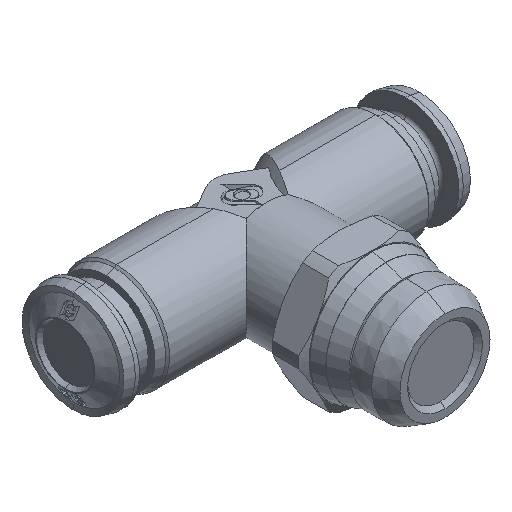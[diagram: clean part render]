
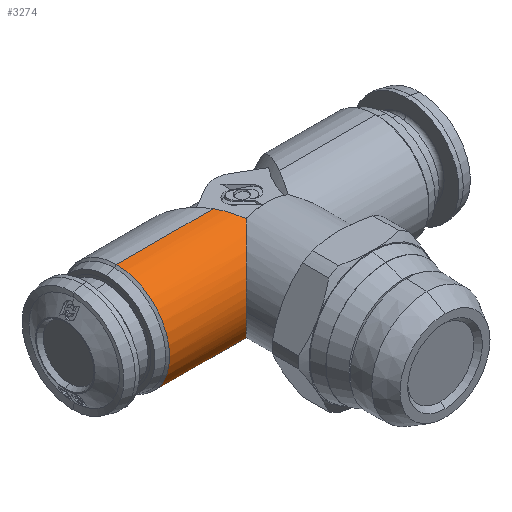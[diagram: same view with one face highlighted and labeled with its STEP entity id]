
A CAD part, isometric view. The second image highlights one B-rep face of the part: STEP entity #3274.
In plain terms, the highlighted cylindrical face has radius 6.25 mm (diameter 12.5 mm), a partial arc.
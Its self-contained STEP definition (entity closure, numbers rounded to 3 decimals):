
#151 = VERTEX_POINT ( 'NONE', #2601 ) ;
#153 = VERTEX_POINT ( 'NONE', #2603 ) ;
#155 = VERTEX_POINT ( 'NONE', #2605 ) ;
#696 = VERTEX_POINT ( 'NONE', #9593 ) ;
#782 = ORIENTED_EDGE ( 'NONE', *, *, #1345, .F. ) ;
#783 = ORIENTED_EDGE ( 'NONE', *, *, #17226, .F. ) ;
#784 = ORIENTED_EDGE ( 'NONE', *, *, #17250, .F. ) ;
#785 = ORIENTED_EDGE ( 'NONE', *, *, #17251, .F. ) ;
#786 = ORIENTED_EDGE ( 'NONE', *, *, #6465, .F. ) ;
#787 = ORIENTED_EDGE ( 'NONE', *, *, #1332, .F. ) ;
#788 = ORIENTED_EDGE ( 'NONE', *, *, #6466, .T. ) ;
#789 = ORIENTED_EDGE ( 'NONE', *, *, #6467, .F. ) ;
#790 = ORIENTED_EDGE ( 'NONE', *, *, #1346, .T. ) ;
#791 = ORIENTED_EDGE ( 'NONE', *, *, #6468, .T. ) ;
#1332 = EDGE_CURVE ( 'NONE', #17615, #155, #9785, .T. ) ;
#1345 = EDGE_CURVE ( 'NONE', #1735, #151, #19760, .T. ) ;
#1346 = EDGE_CURVE ( 'NONE', #17622, #153, #19761, .T. ) ;
#1735 = VERTEX_POINT ( 'NONE', #13990 ) ;
#1736 = VERTEX_POINT ( 'NONE', #13991 ) ;
#1737 = VERTEX_POINT ( 'NONE', #13992 ) ;
#1738 = VERTEX_POINT ( 'NONE', #13993 ) ;
#2601 = CARTESIAN_POINT ( 'NONE',  ( -20.296, -51.374, 30.587 ) ) ;
#2603 = CARTESIAN_POINT ( 'NONE',  ( -20.296, -51.374, 43.087 ) ) ;
#2605 = CARTESIAN_POINT ( 'NONE',  ( -11.278, -57.624, 36.837 ) ) ;
#3180 = EDGE_LOOP ( 'NONE', ( #782, #783, #784, #785, #786, #787, #788, #789, #790, #791 ) ) ;
#3239 = CARTESIAN_POINT ( 'NONE',  ( -7.496, -53.842, 42.579 ) ) ;
#3240 = CARTESIAN_POINT ( 'NONE',  ( -9.862, -56.208, 41.562 ) ) ;
#3245 = CARTESIAN_POINT ( 'NONE',  ( -11.278, -57.624, 39.412 ) ) ;
#3246 = CARTESIAN_POINT ( 'NONE',  ( -11.278, -57.624, 36.837 ) ) ;
#3274 = ADVANCED_FACE ( 'NONE', ( #4013 ), #4021, .T. ) ;
#4013 = FACE_OUTER_BOUND ( 'NONE', #3180, .T. ) ;
#4021 = CYLINDRICAL_SURFACE ( 'NONE', #20219, 6.25 ) ;
#4162 = DIRECTION ( 'NONE',  ( -1., 0., 0. ) ) ;
#4173 = CARTESIAN_POINT ( 'NONE',  ( -22.528, -51.374, 36.837 ) ) ;
#4181 = DIRECTION ( 'NONE',  ( 0., 0., 1. ) ) ;
#4995 = CARTESIAN_POINT ( 'NONE',  ( -22.528, -51.374, 30.587 ) ) ;
#5002 = DIRECTION ( 'NONE',  ( -1., 0., 0. ) ) ;
#5003 = CARTESIAN_POINT ( 'NONE',  ( -22.528, -51.374, 43.087 ) ) ;
#5005 = DIRECTION ( 'NONE',  ( -1., 0., 0. ) ) ;
#6465 = EDGE_CURVE ( 'NONE', #155, #1738, #10933, .T. ) ;
#6466 = EDGE_CURVE ( 'NONE', #17615, #696, #10934, .T. ) ;
#6467 = EDGE_CURVE ( 'NONE', #17622, #696, #10935, .T. ) ;
#6468 = EDGE_CURVE ( 'NONE', #153, #151, #10596, .T. ) ;
#8417 = CARTESIAN_POINT ( 'NONE',  ( -7.496, -53.842, 42.579 ) ) ;
#8421 = CARTESIAN_POINT ( 'NONE',  ( -11.278, -57.624, 36.837 ) ) ;
#8428 = CARTESIAN_POINT ( 'NONE',  ( -11.278, -57.624, 34.261 ) ) ;
#8432 = CARTESIAN_POINT ( 'NONE',  ( -7.51, -53.816, 42.59 ) ) ;
#8433 = CARTESIAN_POINT ( 'NONE',  ( -9.862, -56.208, 32.111 ) ) ;
#8434 = CARTESIAN_POINT ( 'NONE',  ( -7.496, -53.842, 31.094 ) ) ;
#8435 = CARTESIAN_POINT ( 'NONE',  ( -8.684, -51.783, 43.087 ) ) ;
#8436 = CARTESIAN_POINT ( 'NONE',  ( -8.92, -51.374, 43.087 ) ) ;
#8437 = CARTESIAN_POINT ( 'NONE',  ( -7.525, -53.791, 42.6 ) ) ;
#8438 = CARTESIAN_POINT ( 'NONE',  ( -7.539, -53.766, 42.611 ) ) ;
#8439 = CARTESIAN_POINT ( 'NONE',  ( -8.448, -52.193, 43.046 ) ) ;
#8440 = CARTESIAN_POINT ( 'NONE',  ( -7.984, -52.995, 42.887 ) ) ;
#8441 = CARTESIAN_POINT ( 'NONE',  ( -7.757, -53.388, 42.767 ) ) ;
#8442 = CARTESIAN_POINT ( 'NONE',  ( -7.539, -53.766, 42.611 ) ) ;
#8444 = CARTESIAN_POINT ( 'NONE',  ( -20.296, -51.374, 36.837 ) ) ;
#8445 = DIRECTION ( 'NONE',  ( 1., 0., 0. ) ) ;
#8446 = DIRECTION ( 'NONE',  ( 0., 0., -1. ) ) ;
#9593 = CARTESIAN_POINT ( 'NONE',  ( -7.539, -53.766, 42.611 ) ) ;
#9785 =( BOUNDED_CURVE ( )  B_SPLINE_CURVE ( 3, ( #3239, #3240, #3245, #3246 ),
 .UNSPECIFIED., .F., .F. ) 
 B_SPLINE_CURVE_WITH_KNOTS ( ( 4, 4 ),
 ( 5.118, 6.283 ),
 .UNSPECIFIED. ) 
 CURVE ( )  GEOMETRIC_REPRESENTATION_ITEM ( )  RATIONAL_B_SPLINE_CURVE ( ( 1., 0.89, 0.89, 1. ) ) 
 REPRESENTATION_ITEM ( '' )  );
#10596 = CIRCLE ( 'NONE', #19360, 6.25 ) ;
#10933 =( BOUNDED_CURVE ( )  B_SPLINE_CURVE ( 3, ( #8421, #8428, #8433, #8434 ),
 .UNSPECIFIED., .F., .F. ) 
 B_SPLINE_CURVE_WITH_KNOTS ( ( 4, 4 ),
 ( 0., 1.165 ),
 .UNSPECIFIED. ) 
 CURVE ( )  GEOMETRIC_REPRESENTATION_ITEM ( )  RATIONAL_B_SPLINE_CURVE ( ( 1., 0.89, 0.89, 1. ) ) 
 REPRESENTATION_ITEM ( '' )  );
#10934 =( BOUNDED_CURVE ( )  B_SPLINE_CURVE ( 3, ( #8417, #8432, #8437, #8438 ),
 .UNSPECIFIED., .F., .F. ) 
 B_SPLINE_CURVE_WITH_KNOTS ( ( 4, 4 ),
 ( 4.307, 4.32 ),
 .UNSPECIFIED. ) 
 CURVE ( )  GEOMETRIC_REPRESENTATION_ITEM ( )  RATIONAL_B_SPLINE_CURVE ( ( 1., 1., 1., 1. ) ) 
 REPRESENTATION_ITEM ( '' )  );
#10935 = B_SPLINE_CURVE_WITH_KNOTS ( 'NONE', 3,
 ( #8436, #8435, #8439, #8440, #8441, #8442 ),
 .UNSPECIFIED., .F., .F.,
 ( 4, 2, 4 ),
 ( 0., 0.5, 1. ),
 .UNSPECIFIED. ) ;
#11456 = CARTESIAN_POINT ( 'NONE',  ( -8.919, -51.377, 30.587 ) ) ;
#11457 = CARTESIAN_POINT ( 'NONE',  ( -8.918, -51.378, 30.587 ) ) ;
#11462 = CARTESIAN_POINT ( 'NONE',  ( -8.919, -51.376, 30.587 ) ) ;
#11463 = CARTESIAN_POINT ( 'NONE',  ( -8.92, -51.374, 30.587 ) ) ;
#11594 = CARTESIAN_POINT ( 'NONE',  ( -7.757, -53.388, 30.906 ) ) ;
#11595 = CARTESIAN_POINT ( 'NONE',  ( -7.539, -53.766, 31.062 ) ) ;
#11600 = CARTESIAN_POINT ( 'NONE',  ( -7.51, -53.816, 31.083 ) ) ;
#11601 = CARTESIAN_POINT ( 'NONE',  ( -7.496, -53.842, 31.094 ) ) ;
#11602 = CARTESIAN_POINT ( 'NONE',  ( -7.984, -52.995, 30.786 ) ) ;
#11603 = CARTESIAN_POINT ( 'NONE',  ( -8.447, -52.194, 30.627 ) ) ;
#11604 = CARTESIAN_POINT ( 'NONE',  ( -8.683, -51.786, 30.587 ) ) ;
#11605 = CARTESIAN_POINT ( 'NONE',  ( -8.918, -51.378, 30.587 ) ) ;
#11608 = CARTESIAN_POINT ( 'NONE',  ( -7.525, -53.791, 31.073 ) ) ;
#11609 = CARTESIAN_POINT ( 'NONE',  ( -7.539, -53.766, 31.062 ) ) ;
#12145 = CARTESIAN_POINT ( 'NONE',  ( -7.496, -53.842, 42.579 ) ) ;
#12152 = CARTESIAN_POINT ( 'NONE',  ( -8.92, -51.374, 43.087 ) ) ;
#13546 = B_SPLINE_CURVE_WITH_KNOTS ( 'NONE', 3,
 ( #11457, #11456, #11462, #11463 ),
 .UNSPECIFIED., .F., .F.,
 ( 4, 4 ),
 ( 0., 0.003 ),
 .UNSPECIFIED. ) ;
#13559 = B_SPLINE_CURVE_WITH_KNOTS ( 'NONE', 3,
 ( #11595, #11594, #11602, #11603, #11604, #11605 ),
 .UNSPECIFIED., .F., .F.,
 ( 4, 2, 4 ),
 ( 0., 0.501, 1. ),
 .UNSPECIFIED. ) ;
#13560 = B_SPLINE_CURVE_WITH_KNOTS ( 'NONE', 3,
 ( #11601, #11600, #11608, #11609 ),
 .UNSPECIFIED., .F., .F.,
 ( 4, 4 ),
 ( 0.008, 0.008 ),
 .UNSPECIFIED. ) ;
#13990 = CARTESIAN_POINT ( 'NONE',  ( -8.92, -51.374, 30.587 ) ) ;
#13991 = CARTESIAN_POINT ( 'NONE',  ( -8.918, -51.378, 30.587 ) ) ;
#13992 = CARTESIAN_POINT ( 'NONE',  ( -7.539, -53.766, 31.062 ) ) ;
#13993 = CARTESIAN_POINT ( 'NONE',  ( -7.496, -53.842, 31.094 ) ) ;
#17226 = EDGE_CURVE ( 'NONE', #1736, #1735, #13546, .T. ) ;
#17250 = EDGE_CURVE ( 'NONE', #1737, #1736, #13559, .T. ) ;
#17251 = EDGE_CURVE ( 'NONE', #1738, #1737, #13560, .T. ) ;
#17615 = VERTEX_POINT ( 'NONE', #12145 ) ;
#17622 = VERTEX_POINT ( 'NONE', #12152 ) ;
#19360 = AXIS2_PLACEMENT_3D ( 'NONE', #8444, #8445, #8446 ) ;
#19760 = LINE ( 'NONE', #4995, #19762 ) ;
#19761 = LINE ( 'NONE', #5003, #19764 ) ;
#19762 = VECTOR ( 'NONE', #5002, 1000. ) ;
#19764 = VECTOR ( 'NONE', #5005, 1000. ) ;
#20219 = AXIS2_PLACEMENT_3D ( 'NONE', #4173, #4162, #4181 ) ;
